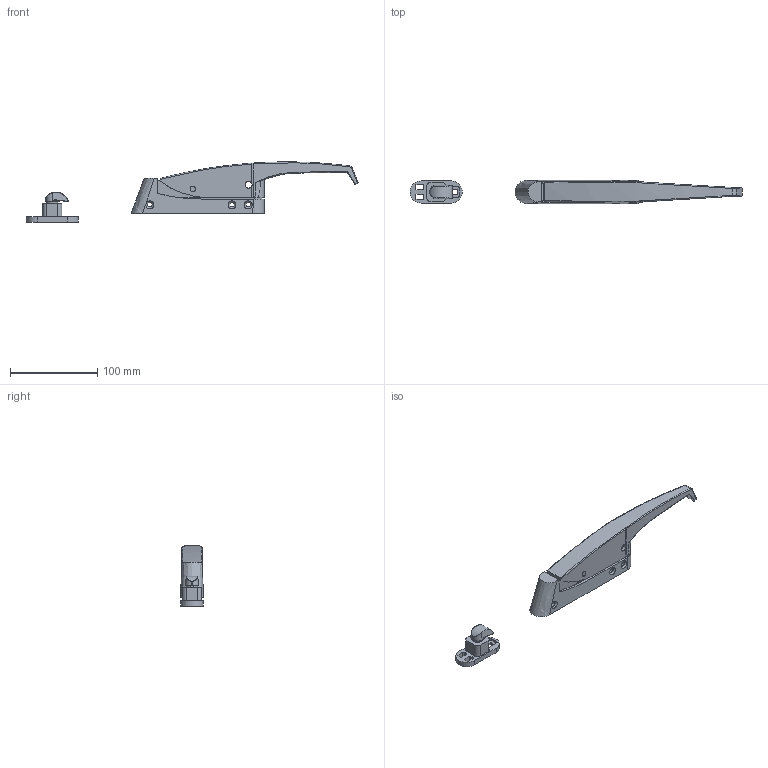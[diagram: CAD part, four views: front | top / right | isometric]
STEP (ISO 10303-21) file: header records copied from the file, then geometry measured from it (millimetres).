
FILE_DESCRIPTION(/* description */ (''),/* implementation_level */ '2;1');
FILE_NAME(/* name */ '\\NAS\db20\D-402\DR_D-402.stp',/* time_stamp */ '2017-07-26T14:44:04+09:00',/* author */ ('user'),/* organization */ (''),/* preprocessor_version */ 'ST-DEVELOPER v15.6',/* originating_system */ 'Autodesk Inventor 2015',/* authorisation */ '');
FILE_SCHEMA (('AUTOMOTIVE_DESIGN { 1 0 10303 214 3 1 1 }'));
Length unit declared in the file: millimetre
Products named in the file (5): DR_D-402; DR_D-402-B; DR_D-402-Catch; DR_D-402-H
Bounding box: 379.78 x 26.5 x 68.8 mm (x, y, z)
Volume: 133560 mm3; surface area: 68931.1 mm2
Topology: 6 solids, 6 shells, 270 faces, 723 edges, 467 vertices
Faces by surface type: plane 118, cylinder 96, bspline 31, cone 18, sphere 6, torus 1
Full cylindrical faces by diameter (mm): 5 x5, 5.5 x3, 6 x4, 8 x2, 11 x1, 11.5 x1, 13 x1, 14 x1
Entity records: 9565 total; most frequent: CARTESIAN_POINT 2760, DIRECTION 1394, ORIENTED_EDGE 1376, EDGE_CURVE 688, AXIS2_PLACEMENT_3D 514, VERTEX_POINT 456, LINE 366, VECTOR 366
